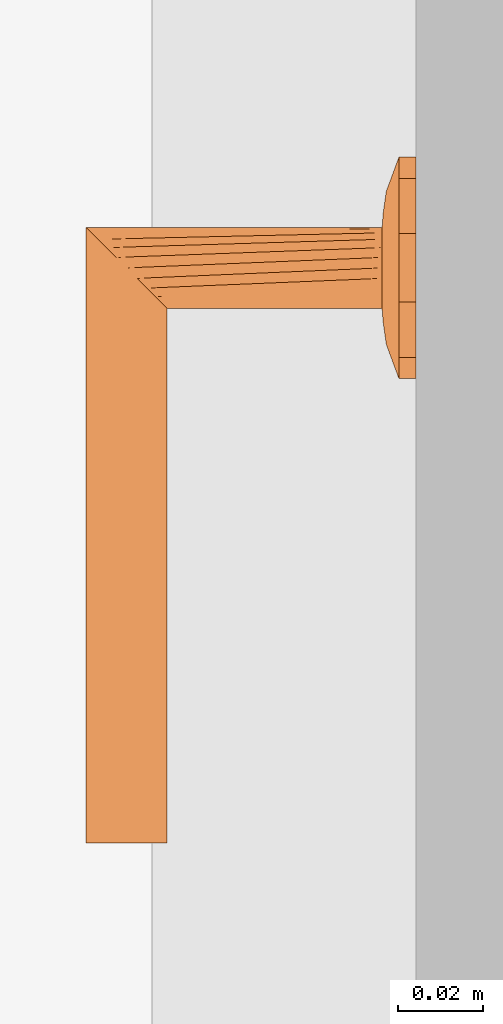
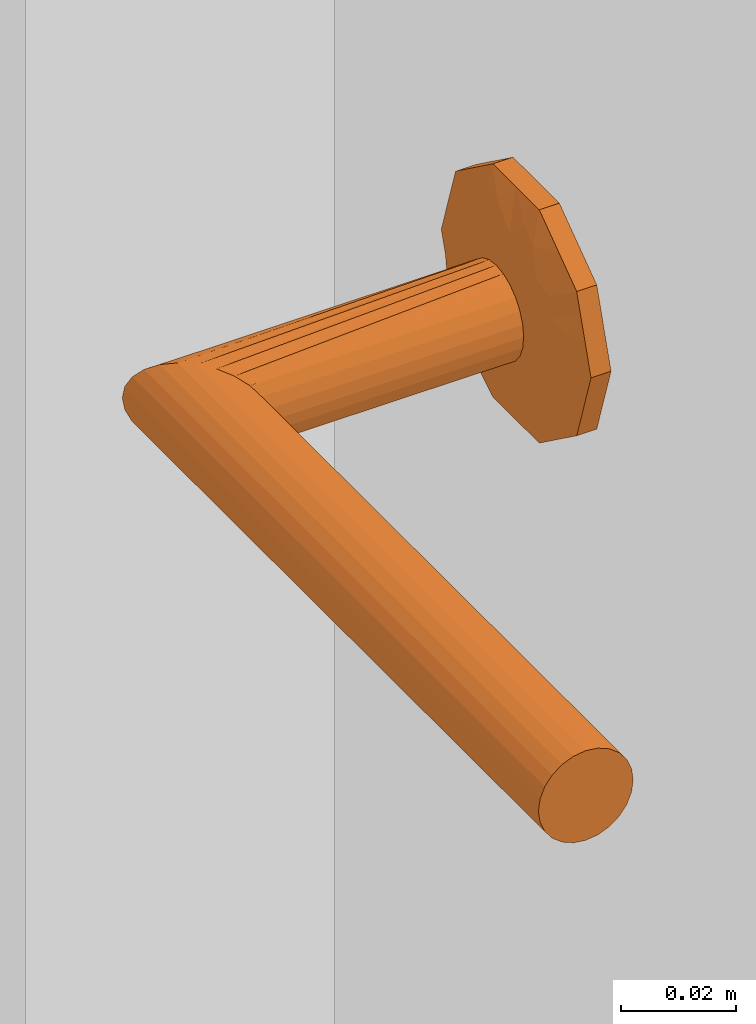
# One storey, part 64 of 68: 1 proxy.
"""IFC2X3 building model written with IfcOpenShell, lengths in millimetres."""

import ifcopenshell
import ifcopenshell.guid

model = None  # the IFC model being written
_history = None  # IfcOwnerHistory: only IFC2X3 demands one
_inside = {}  # id of a spatial element -> (the spatial element, [elements in it])
_under = {}  # id of a project, library or spatial element -> (it, [spatial elements below it])
_declared = {}  # id of a project -> (the project, [libraries it declares])
_typed = {}  # id of a type object -> (the type object, [elements of that type])
_made_of = {}  # id of a material, layer set ... -> (it, [elements and type objects made of it])


def new_model(schema):
    """Start an empty IFC model of exactly this schema.

    Asked for "IFC4X3", IfcOpenShell would pick the latest addendum, in which some entities
    have other attributes; the version numbers below select the first issue.
    IFC2X3 requires an IfcOwnerHistory on every rooted entity: one is made here for all.
    """
    global model, _history
    if schema == "IFC4X3":
        model = ifcopenshell.file(schema_version=(4, 3, 0, 0))
    else:
        model = ifcopenshell.file(schema=schema)
    _inside.clear()
    _under.clear()
    _declared.clear()
    _typed.clear()
    _made_of.clear()
    _history = None
    if model.schema == "IFC2X3":
        org = make("IfcOrganization", Name="unknown")
        user = make(
            "IfcPersonAndOrganization",
            ThePerson=make("IfcPerson", FamilyName="unknown"),
            TheOrganization=org,
        )
        app = make(
            "IfcApplication",
            ApplicationDeveloper=org,
            Version="unknown",
            ApplicationFullName="unknown",
            ApplicationIdentifier="unknown",
        )
        _history = make(
            "IfcOwnerHistory",
            OwningUser=user,
            OwningApplication=app,
            ChangeAction="ADDED",
            CreationDate=0,
        )
    return model


def make(cls, **values):
    """One entity of the class cls with the attributes given. An attribute that is None is left unset."""
    return model.create_entity(
        cls, **{name: value for name, value in values.items() if value is not None}
    )


def entity(cls, *values):
    """Any entity or typed value of the class cls, its attributes in the order of the schema. None: left unset."""
    e = model.create_entity(cls)
    for i, value in enumerate(values):
        if value is not None:
            e[i] = value
    return e


def rooted(cls, **values):
    """An entity with a GlobalId (a new one), such as an element, a storey or a relation."""
    return make(cls, GlobalId=ifcopenshell.guid.new(), OwnerHistory=_history, **values)


def si_unit(unit_type, name, prefix=None):
    """IfcSIUnit, for example si_unit("LENGTHUNIT", "METRE", prefix="MILLI")."""
    return make("IfcSIUnit", UnitType=unit_type, Prefix=prefix, Name=name)


def converted_unit(unit_type, name, factor, base, dimensions=None, offset=None):
    """IfcConversionBasedUnit, such as the inch: factor (a typed value) times the base unit."""
    return make(
        "IfcConversionBasedUnit"
        if offset is None
        else "IfcConversionBasedUnitWithOffset",
        ConversionOffset=offset,
        Dimensions=None
        if dimensions is None
        else entity("IfcDimensionalExponents", *dimensions),
        UnitType=unit_type,
        Name=name,
        ConversionFactor=make(
            "IfcMeasureWithUnit", ValueComponent=factor, UnitComponent=base
        ),
    )


def assignment(units):
    """IfcUnitAssignment: the units of a project."""
    return None if units is None else make("IfcUnitAssignment", Units=units)


def point(xyz):
    """IfcCartesianPoint."""
    return None if xyz is None else make("IfcCartesianPoint", Coordinates=xyz)


def direction(xyz):
    """IfcDirection."""
    return None if xyz is None else make("IfcDirection", DirectionRatios=xyz)


def frame(location, z_axis=None, x_axis=None):
    """IfcAxis2Placement3D, a coordinate frame: its origin and axes. An axis left out is left unset."""
    return make(
        "IfcAxis2Placement3D",
        Location=point(location),
        Axis=direction(z_axis),
        RefDirection=direction(x_axis),
    )


def origin():
    """The frame at (0, 0, 0) with its axes left unset."""
    return frame((0.0, 0.0, 0.0))


def place(relative_to, where):
    """IfcLocalPlacement: puts the frame where relative to a parent placement (None: the world)."""
    return make(
        "IfcLocalPlacement", PlacementRelTo=relative_to, RelativePlacement=where
    )


def context(
    kind, dimensions, precision=None, world=None, true_north=None, identifier=None
):
    """IfcGeometricRepresentationContext, for example the 3D "Model" context."""
    return make(
        "IfcGeometricRepresentationContext",
        ContextIdentifier=identifier,
        ContextType=kind,
        CoordinateSpaceDimension=dimensions,
        Precision=precision,
        WorldCoordinateSystem=world,
        TrueNorth=true_north,
    )


def subcontext(parent, identifier, kind, view, scale=None):
    """IfcGeometricRepresentationSubContext, for example "Body" below "Model"."""
    return make(
        "IfcGeometricRepresentationSubContext",
        ContextIdentifier=identifier,
        ContextType=kind,
        ParentContext=parent,
        TargetScale=scale,
        TargetView=view,
    )


def project(units=None, contexts=None):
    """IfcProject with its units and contexts."""
    return rooted(
        "IfcProject",
        Name="project",
        RepresentationContexts=contexts,
        UnitsInContext=assignment(units),
    )


def spatial(cls, under=None, at=None, **own):
    """A site, building, storey or space (cls), placed at a placement, below another one or the project."""
    s = rooted(cls, ObjectPlacement=at, **own)
    if under is not None:
        _under.setdefault(under.id(), (under, []))[1].append(s)
    return s


def faces_of(points, faces, orient=None, outer=None):
    """IfcFace entities. A face is a list of loops; a loop is a list of indices into points, from 0.

    orient and outer hold one flag for each loop. By default every Orientation is true, the
    first loop of a face is its IfcFaceOuterBound and the others are IfcFaceBound.
    """
    made = []
    for i, loops in enumerate(faces):
        bounds = []
        for j, loop in enumerate(loops):
            is_outer = j == 0 if outer is None else outer[i][j]
            bounds.append(
                make(
                    "IfcFaceOuterBound" if is_outer else "IfcFaceBound",
                    Bound=make("IfcPolyLoop", Polygon=[points[k] for k in loop]),
                    Orientation=True if orient is None else orient[i][j],
                )
            )
        made.append(make("IfcFace", Bounds=bounds))
    return made


def faceted_brep(points, faces, orient=None, outer=None, voids=None):
    """IfcFacetedBrep: a solid bounded by flat faces; with voids (closed shells), ...WithVoids."""
    shared = [point(p) for p in points]
    hull = make("IfcClosedShell", CfsFaces=faces_of(shared, faces, orient, outer))
    if voids is None:
        return make("IfcFacetedBrep", Outer=hull)
    return make(
        "IfcFacetedBrepWithVoids",
        Outer=hull,
        Voids=[
            make(cls, CfsFaces=faces_of(shared, fs, o, b)) for cls, fs, o, b in voids
        ],
    )


def shape(context_of_items, identifier, shape_type, items):
    """IfcShapeRepresentation: the items that make up one representation, for example the "Body"."""
    return make(
        "IfcShapeRepresentation",
        ContextOfItems=context_of_items,
        RepresentationIdentifier=identifier,
        RepresentationType=shape_type,
        Items=items,
    )


def source(mapping_origin, context_of_items, identifier, shape_type, items):
    """IfcRepresentationMap: a shape defined once, which mapped items show again and again."""
    return make(
        "IfcRepresentationMap",
        MappingOrigin=mapping_origin,
        MappedRepresentation=shape(context_of_items, identifier, shape_type, items),
    )


def transform(
    local_origin,
    x_axis=None,
    y_axis=None,
    z_axis=None,
    scale=None,
    scale2=None,
    scale3=None,
    uniform=True,
):
    """IfcCartesianTransformationOperator3D, or its non-uniform kind. x_axis, y_axis, z_axis: its Axis1, 2, 3."""
    if uniform:
        return make(
            "IfcCartesianTransformationOperator3D",
            Axis1=direction(x_axis),
            Axis2=direction(y_axis),
            LocalOrigin=point(local_origin),
            Scale=scale,
            Axis3=direction(z_axis),
        )
    return make(
        "IfcCartesianTransformationOperator3DnonUniform",
        Axis1=direction(x_axis),
        Axis2=direction(y_axis),
        LocalOrigin=point(local_origin),
        Scale=scale,
        Axis3=direction(z_axis),
        Scale2=scale2,
        Scale3=scale3,
    )


def mapped(mapping_source, mapping_target):
    """IfcMappedItem: shows the shape of a source again, moved by a transform."""
    return make(
        "IfcMappedItem", MappingSource=mapping_source, MappingTarget=mapping_target
    )


def material(Name=None, Category=None):
    """IfcMaterial."""
    return make("IfcMaterial", Name=Name, Category=Category)


def made_of(thing, what):
    """Note that an element or type object is made of a material, layer set ...; save() writes the relation."""
    if what is not None:
        _made_of.setdefault(what.id(), (what, []))[1].append(thing)
    return thing


def type_object(cls, material=None, **own):
    """A type object (cls), such as IfcWallType, which elements share."""
    return made_of(rooted(cls, **own), material)


def type_shapes(of_type, sources):
    """Give a type object the sources (RepresentationMaps) that its elements show as mapped items."""
    of_type.RepresentationMaps = sources


def element(
    cls,
    number,
    at=None,
    inside=None,
    cuts=None,
    type_object=None,
    material=None,
    context=None,
    identifier="Body",
    shape_type=None,
    held_by="IfcProductDefinitionShape",
    body=None,
    shapes=None,
    **own,
):
    """One element of the class cls, such as IfcWall. Its Tag is "e" and its number.

    at: its placement. inside: the storey or other place that contains it. cuts: it is an
    opening in that element (IfcRelVoidsElement). A single representation is given by context,
    identifier, shape_type and body (its items); several are given by shapes. held_by: the class
    of the entity that holds the representations. save() writes the other relations.
    """
    e = rooted(cls, Tag="e%d" % number, ObjectPlacement=at, **own)
    if body is not None:
        shapes = [shape(context, identifier, shape_type, body)]
    if shapes is not None:
        e.Representation = make(held_by, Representations=shapes)
    if inside is not None:
        _inside.setdefault(inside.id(), (inside, []))[1].append(e)
    if cuts is not None:
        rooted(
            "IfcRelVoidsElement", RelatingBuildingElement=cuts, RelatedOpeningElement=e
        )
    if type_object is not None:
        _typed.setdefault(type_object.id(), (type_object, []))[1].append(e)
    return made_of(e, material)


def aggregate(whole, parts):
    """IfcRelAggregates: a whole, such as a stair, and the parts it consists of."""
    return rooted("IfcRelAggregates", RelatingObject=whole, RelatedObjects=parts)


def save(model, path):
    """Write the relations noted so far, then the file.

    IfcRelAggregates (storeys below a building ...), IfcRelContainedInSpatialStructure (elements
    in a storey), IfcRelDefinesByType, IfcRelAssociatesMaterial and IfcRelDeclares: one each for
    every whole, place, type object, material and project.
    """
    for whole, parts in _under.values():
        aggregate(whole, parts)
    for where, things in _inside.values():
        rooted(
            "IfcRelContainedInSpatialStructure",
            RelatedElements=things,
            RelatingStructure=where,
        )
    for kind, things in _typed.values():
        rooted("IfcRelDefinesByType", RelatedObjects=things, RelatingType=kind)
    for what, things in _made_of.values():
        rooted("IfcRelAssociatesMaterial", RelatedObjects=things, RelatingMaterial=what)
    for by, libraries in _declared.values():
        rooted("IfcRelDeclares", RelatingContext=by, RelatedDefinitions=libraries)
    model.write(path)


model = new_model("IFC2X3")

# Units and contexts
model_context = context("Model", 3, precision=0.01, world=origin(), true_north=direction((6.123233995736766e-17, 1.0)))
plan_context = context("Plan", 3, precision=0.01, world=origin(), true_north=direction((6.123233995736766e-17, 1.0)))
body_context = subcontext(model_context, "Body", "Model", "MODEL_VIEW")
ifc_project = project(units=[si_unit("LENGTHUNIT", "METRE", prefix="MILLI"), converted_unit("PLANEANGLEUNIT", "DEGREE", entity("IfcPlaneAngleMeasure", 0.017453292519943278), si_unit("PLANEANGLEUNIT", "RADIAN"), dimensions=[0, 0, 0, 0, 0, 0, 0]), si_unit("AREAUNIT", "SQUARE_METRE")], contexts=[model_context, plan_context])

# Site, building, storey
site_placement = place(None, origin())
site = spatial("IfcSite", under=ifc_project, at=site_placement, Name="Default", CompositionType="ELEMENT")
building_placement = place(site_placement, origin())
building = spatial("IfcBuilding", under=site, at=building_placement, CompositionType="ELEMENT")
storey_placement = place(building_placement, frame((0.0, 0.0, 6295.0)))
storey = spatial("IfcBuildingStorey", under=building, at=storey_placement, Name="3K", CompositionType="ELEMENT", Elevation=6294.999999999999)

# Proxy
ifc_material = material(Name="<Unnamed>")
building_element_proxy_type = type_object("IfcBuildingElementProxyType", Name="Door-handle_Lever_ABLOY_INOXI_3-19ss-002_RT:Default", PredefinedType="NOTDEFINED", material=ifc_material)
shared_shape = source(origin(), body_context, "Body", "Brep", [
    faceted_brep([(0.0, 0.0, 0.0), (8.034441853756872, 24.72746942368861, 0.0), (14.534441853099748, 20.00494299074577, 0.0), (21.034441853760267, 15.282416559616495, 0.0), (23.51722092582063, 7.641208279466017, 0.0), (26.0, 0.0, 0.0), (23.517220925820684, -7.641208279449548, 0.0), (0.0, 24.72746942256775, 0.0), (-8.034441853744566, 24.727469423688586, 0.0), (-14.534441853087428, 20.00494299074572, 0.0), (-21.03444185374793, 15.282416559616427, 0.0), (-23.517220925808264, 7.641208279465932, 0.0), (-26.0, 0.0, 0.0), (21.034441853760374, -15.282416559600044, 0.0), (14.534441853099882, -20.004942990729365, 0.0), (8.034441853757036, -24.72746942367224, 0.0), (0.0, -24.72746942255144, 0.0), (-23.517220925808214, -7.641208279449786, 0.0), (-21.034441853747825, -15.282416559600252, 0.0), (-14.53444185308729, -20.004942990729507, 0.0), (-8.0344418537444, -24.72746942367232, 0.0), (0.0, 0.0, 8.0), (9.500000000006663, 0.0, 8.0), (8.312500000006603, 2.056810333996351, 8.0), (7.125000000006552, 4.113620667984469, 8.0), (5.937500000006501, 6.170431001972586, 8.0), (4.7500000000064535, 8.227241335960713, 8.0), (2.375000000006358, 8.2272413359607, 8.0), (0.0, 8.227241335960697, 8.0), (-2.3749999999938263, 8.227241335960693, 8.0), (-4.749999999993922, 8.227241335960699, 8.0), (-5.937499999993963, 6.1704310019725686, 8.0), (-7.124999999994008, 4.1136206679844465, 8.0), (-8.312499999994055, 2.0568103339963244, 8.0), (-9.499999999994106, 0.0, 8.0), (-8.31249999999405, -2.0568103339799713, 8.0), (8.312500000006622, -2.0568103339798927, 8.0), (7.125000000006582, -4.113620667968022, 8.0), (5.937500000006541, -6.170431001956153, 8.0), (4.750000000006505, -8.227241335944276, 8.0), (-7.124999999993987, -4.113620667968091, 8.0), (-5.9374999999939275, -6.17043100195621, 8.0), (-4.74999999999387, -8.227241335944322, 8.0), (-2.374999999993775, -8.227241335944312, 8.0), (0.0, -8.227241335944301, 8.0), (2.3750000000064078, -8.227241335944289, 8.0), (-20.6430713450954, 6.292822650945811, 5.929480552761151), (-16.663919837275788, 7.932665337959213, 6.877259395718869), (-22.48876527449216, 10.806469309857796, 4.030771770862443), (-16.764060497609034, 3.8202578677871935, 7.1747985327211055), (-12.504579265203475, 5.179566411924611, 7.774932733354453), (-11.979136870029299, 13.678312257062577, 6.945778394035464), (-11.963426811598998, 8.62529041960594, 7.618343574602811), (-9.07172672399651, 10.31160661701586, 7.7520782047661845), (8.03444185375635, 24.727469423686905, 4.030771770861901), (0.0, 24.72746942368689, 4.030771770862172), (5.758554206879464, 20.96753300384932, 5.871476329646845), (20.643071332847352, 6.292822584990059, 5.929480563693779), (22.488765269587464, 10.806469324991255, 4.03077177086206), (16.66391982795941, 7.9326653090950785, 6.877259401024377), (9.49943163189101, 18.6436835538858, 6.154325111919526), (14.534441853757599, 20.004942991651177, 4.030771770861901), (-14.534441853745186, 20.00494299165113, 4.030771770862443), (-21.034441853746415, 15.282416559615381, 4.030771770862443), (-15.783149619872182, 11.991003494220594, 6.50080018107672), (-23.943088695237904, 6.330522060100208, 4.030771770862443), (-23.012042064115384, 0.0, 5.135401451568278), (12.50457924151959, 5.179566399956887, 7.774932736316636), (11.963426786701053, 8.625290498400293, 7.618343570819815), (16.76406041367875, 3.820257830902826, 7.17479855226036), (15.783149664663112, 11.991003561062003, 6.50080015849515), (23.01204200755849, 0.0, 5.135401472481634), (17.9853516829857, 0.0, 6.993737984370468), (8.661516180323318, 10.478936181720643, 7.768126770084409), (-3.3573143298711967, 21.197247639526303, 5.971427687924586), (-8.03444185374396, 24.727469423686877, 4.030771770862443), (-7.711266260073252, 12.76034452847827, 7.594456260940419), (-5.97325794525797, 16.43013906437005, 7.110979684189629), (-9.94191586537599, 17.061976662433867, 6.522757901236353), (11.979136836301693, 13.678312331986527, 6.945778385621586), (5.953298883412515, 16.50608604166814, 7.096344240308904), (7.511307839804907, 13.358932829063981, 7.529187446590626), (-1.5654593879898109, 15.307443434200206, 7.519134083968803), (-7.784980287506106, 20.476295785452, 5.812837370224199), (2.8135289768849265, 17.763922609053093, 6.993737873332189), (-17.985351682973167, 0.0, 6.993737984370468), (-26.0, 0.0, 4.030771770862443), (-23.51722092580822, 7.641208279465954, 4.030771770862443), (26.0, 0.0, 4.030771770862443), (24.308823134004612, 5.204907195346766, 4.030771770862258), (23.943088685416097, 6.330522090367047, 4.030771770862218), (21.03444185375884, 15.282416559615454, 4.030771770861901), (22.617646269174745, 10.40981439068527, 4.030771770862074), (20.6430713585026, -6.292822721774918, 5.929480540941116), (16.663919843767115, -7.932665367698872, 6.877259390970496), (22.48876527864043, -10.8064692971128, 4.030771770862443), (16.764060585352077, -3.8202579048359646, 7.174798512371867), (12.504579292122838, -5.17956641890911, 7.774932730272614), (11.979136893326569, -13.678312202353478, 6.9457784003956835), (11.963426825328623, -8.62529034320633, 7.618343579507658), (9.071726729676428, -10.311606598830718, 7.752078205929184), (-8.03444185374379, -24.727469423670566, 4.030771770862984), (0.0, -24.727469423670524, 4.030771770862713), (-5.758554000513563, -20.96753314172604, 5.8714763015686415), (-20.643071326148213, -6.292822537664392, 5.929480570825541), (-22.488765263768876, -10.80646934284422, 4.030771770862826), (-16.66391981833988, -7.932665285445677, 6.877259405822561), (-9.499431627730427, -18.643683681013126, 6.154325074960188), (-14.534441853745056, -20.004942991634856, 4.030771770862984), (14.53444185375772, -20.00494299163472, 4.030771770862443), (21.034441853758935, -15.282416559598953, 4.030771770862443), (15.783149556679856, -11.991003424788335, 6.5008002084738), (23.943088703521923, -6.330522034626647, 4.030771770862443), (-12.504579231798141, -5.17956638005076, 7.77493273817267), (-11.963426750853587, -8.625290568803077, 7.618343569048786), (-16.764060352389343, -3.8202577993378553, 7.174798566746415), (-15.783149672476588, -11.991003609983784, 6.500800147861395), (-8.661516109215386, -10.478936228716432, 7.768126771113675), (3.3573144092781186, -21.197247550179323, 5.971427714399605), (8.034441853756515, -24.727469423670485, 4.030771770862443), (7.711266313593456, -12.760344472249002, 7.5944562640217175), (5.9732581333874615, -16.430139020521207, 7.110979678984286), (9.941915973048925, -17.06197655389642, 6.522757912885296), (-11.979136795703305, -13.678312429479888, 6.945778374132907), (-5.953298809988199, -16.506086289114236, 7.096344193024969), (-7.511307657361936, -13.358932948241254, 7.5291874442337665), (1.5654596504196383, -15.3074431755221, 7.519134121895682), (7.784980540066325, -20.476295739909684, 5.812837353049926), (-2.81352881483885, -17.76392263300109, 6.993737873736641), (23.517220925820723, -7.64120827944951, 4.030771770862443), (-24.308823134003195, -5.20490719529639, 4.030771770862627), (-23.943088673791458, -6.330522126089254, 4.030771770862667), (-21.034441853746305, -15.282416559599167, 4.030771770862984), (-22.617646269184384, -10.409814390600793, 4.0307717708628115)], [[[0, 1, 2]], [[0, 2, 3]], [[0, 3, 4]], [[0, 4, 5]], [[0, 5, 6]], [[0, 7, 1]], [[0, 8, 7]], [[0, 9, 8]], [[0, 10, 9]], [[0, 11, 10]], [[0, 12, 11]], [[0, 6, 13]], [[0, 13, 14]], [[0, 14, 15]], [[0, 15, 16]], [[0, 17, 12]], [[0, 18, 17]], [[0, 19, 18]], [[0, 20, 19]], [[0, 16, 20]], [[21, 22, 23]], [[21, 23, 24]], [[21, 24, 25]], [[21, 25, 26]], [[21, 26, 27]], [[21, 27, 28]], [[21, 28, 29]], [[21, 29, 30]], [[21, 30, 31]], [[21, 31, 32]], [[21, 32, 33]], [[21, 33, 34]], [[21, 34, 35]], [[21, 36, 22]], [[21, 37, 36]], [[21, 38, 37]], [[21, 39, 38]], [[21, 35, 40]], [[21, 40, 41]], [[21, 41, 42]], [[21, 42, 43]], [[21, 43, 44]], [[21, 44, 45]], [[21, 45, 39]], [[46, 47, 48]], [[49, 50, 47]], [[33, 32, 50]], [[51, 52, 53]], [[32, 52, 50]], [[49, 47, 46]], [[54, 55, 56]], [[57, 58, 59]], [[60, 61, 54]], [[62, 63, 64]], [[46, 65, 66]], [[67, 59, 68]], [[23, 69, 67]], [[70, 68, 59]], [[23, 22, 69]], [[52, 51, 64]], [[71, 69, 72]], [[73, 25, 68]], [[74, 55, 75]], [[76, 77, 78]], [[70, 61, 79]], [[71, 57, 69]], [[60, 80, 81]], [[51, 76, 78]], [[77, 29, 82]], [[26, 81, 27]], [[74, 83, 77]], [[77, 82, 74]], [[74, 84, 55]], [[34, 49, 85]], [[23, 67, 24]], [[28, 84, 82]], [[74, 82, 84]], [[29, 76, 30]], [[29, 28, 82]], [[49, 34, 33]], [[47, 50, 52]], [[47, 52, 64]], [[50, 49, 33]], [[53, 76, 51]], [[52, 32, 31]], [[49, 66, 85]], [[86, 66, 65]], [[24, 67, 68]], [[83, 78, 77]], [[49, 46, 66]], [[48, 64, 63]], [[46, 48, 87, 65]], [[48, 47, 64]], [[59, 67, 69]], [[26, 73, 81]], [[79, 68, 70]], [[25, 24, 68]], [[71, 88, 89, 90]], [[22, 72, 69]], [[59, 69, 57]], [[79, 61, 60]], [[51, 62, 64]], [[70, 58, 91]], [[90, 57, 71]], [[58, 70, 59]], [[57, 90, 92]], [[79, 60, 81]], [[61, 70, 91]], [[56, 80, 60]], [[79, 81, 73]], [[80, 84, 27]], [[79, 73, 68]], [[27, 84, 28]], [[25, 73, 26]], [[77, 76, 29]], [[31, 30, 53]], [[78, 62, 51]], [[75, 62, 83]], [[78, 83, 62]], [[75, 83, 74]], [[76, 53, 30]], [[31, 53, 52]], [[81, 80, 27]], [[84, 80, 56]], [[84, 56, 55]], [[54, 56, 60]], [[93, 94, 95]], [[96, 97, 94]], [[36, 37, 97]], [[98, 99, 100]], [[37, 99, 97]], [[96, 94, 93]], [[101, 102, 103]], [[104, 105, 106]], [[107, 108, 101]], [[109, 110, 111]], [[93, 112, 71]], [[113, 106, 114]], [[35, 115, 113]], [[116, 114, 106]], [[35, 34, 115]], [[99, 98, 111]], [[66, 115, 85]], [[117, 41, 114]], [[118, 102, 119]], [[120, 121, 122]], [[116, 108, 123]], [[66, 104, 115]], [[107, 124, 125]], [[120, 45, 121]], [[121, 45, 126]], [[42, 125, 43]], [[118, 127, 121]], [[121, 126, 118]], [[118, 128, 102]], [[22, 96, 72]], [[35, 113, 40]], [[44, 128, 126]], [[118, 126, 128]], [[45, 120, 39]], [[45, 44, 126]], [[96, 22, 36]], [[94, 97, 99]], [[94, 99, 111]], [[97, 96, 36]], [[100, 120, 98]], [[99, 37, 38]], [[96, 71, 72]], [[88, 71, 112]], [[40, 113, 114]], [[127, 122, 121]], [[96, 93, 71]], [[95, 111, 110]], [[93, 95, 129, 112]], [[95, 94, 111]], [[106, 113, 115]], [[42, 117, 125]], [[123, 114, 116]], [[41, 40, 114]], [[66, 86, 130, 131]], [[34, 85, 115]], [[106, 115, 104]], [[123, 108, 107]], [[98, 109, 111]], [[116, 105, 132]], [[131, 104, 66]], [[105, 116, 106]], [[104, 131, 133]], [[123, 107, 125]], [[108, 116, 132]], [[103, 124, 107]], [[123, 125, 117]], [[124, 128, 43]], [[123, 117, 114]], [[43, 128, 44]], [[41, 117, 42]], [[38, 39, 100]], [[98, 120, 122]], [[122, 109, 98]], [[119, 109, 127]], [[122, 127, 109]], [[119, 127, 118]], [[120, 100, 39]], [[38, 100, 99]], [[125, 124, 43]], [[128, 124, 103]], [[128, 103, 102]], [[101, 103, 107]], [[9, 10, 63, 62, 75, 8]], [[11, 12, 86, 65, 87, 48, 63, 10]], [[4, 3, 92, 90, 89, 88, 5]], [[3, 91, 58]], [[55, 54, 1, 7, 8, 75]], [[3, 2, 1, 54, 61, 91]], [[13, 6, 5, 88, 112, 129, 95, 110]], [[119, 15, 14, 13, 110, 109]], [[17, 18, 133, 131, 130, 86, 12]], [[18, 132, 105]], [[102, 101, 20, 16, 15, 119]], [[18, 19, 20, 101, 108, 132]], [[57, 92, 58]], [[104, 133, 105]], [[3, 58, 92]], [[18, 105, 133]]]),
    faceted_brep([(0.0, 9.499999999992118, 8.0), (2.4587809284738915, 9.176295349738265, 8.0), (4.7499999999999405, 8.22724133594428, 8.0), (6.717514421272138, 6.7175144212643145, 8.0), (8.227241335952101, 4.749999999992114, 8.0), (9.17629534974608, 2.458780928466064, 8.0), (9.499999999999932, 0.0, 8.0), (9.17629534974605, -2.458780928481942, 8.0), (8.22724133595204, -4.75000000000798, 8.0), (6.717514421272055, -6.717514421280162, 8.0), (4.7499999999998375, -8.227241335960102, 8.0), (2.4587809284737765, -9.176295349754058, 8.0), (0.0, -9.500000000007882, 8.0), (-2.4587809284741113, -9.176295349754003, 8.0), (-4.750000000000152, -8.227241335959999, 8.0), (-6.717514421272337, -6.717514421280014, 8.0), (-8.227241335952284, -4.750000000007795, 8.0), (-9.176295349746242, -2.458780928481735, 8.0), (-9.500000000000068, 0.0, 8.0), (-9.176295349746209, 2.4587809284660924, 8.0), (-8.227241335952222, 4.74999999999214, 8.0), (-6.717514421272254, 6.717514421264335, 8.0), (-4.7500000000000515, 8.227241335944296, 8.0), (-2.4587809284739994, 9.176295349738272, 8.0), (-6.717514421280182, -6.7175144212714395, 61.282485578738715), (-8.227241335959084, -4.7499999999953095, 59.772758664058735), (-9.176295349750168, -2.458780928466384, 58.82370465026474), (-2.4587809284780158, -9.176295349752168, 65.54121907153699), (-4.750000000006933, -8.227241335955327, 63.25000000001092), (-9.500000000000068, 0.0, 58.50000000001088), (0.0, -9.50000000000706, 68.0), (2.4587809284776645, -9.17629534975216, 70.45878092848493), (4.750000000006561, -8.227241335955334, 72.75000000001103), (6.717514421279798, -6.7175144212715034, 74.71751442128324), (9.17629534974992, -2.458780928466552, 77.17629534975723), (8.22724133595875, -4.749999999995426, 76.22724133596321), (9.499999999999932, 0.0, 77.50000000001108), (9.176295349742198, 2.4587809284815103, 77.1762953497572), (8.227241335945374, 4.750000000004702, 76.22724133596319), (4.749999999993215, 8.227241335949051, 72.75000000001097), (6.7175144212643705, 6.717514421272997, 74.7175144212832), (2.4587809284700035, 9.17629534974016, 70.45878092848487), (-2.4587809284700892, 9.176295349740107, 65.54121907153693), (0.0, 9.49999999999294, 68.0), (-6.717514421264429, 6.717514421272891, 61.282485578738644), (-4.749999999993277, 8.227241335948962, 63.250000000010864), (-9.176295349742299, 2.458780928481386, 58.8237046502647), (-8.227241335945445, 4.750000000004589, 59.77275866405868), (-135.0, 9.500000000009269, 68.0), (-135.0, 9.176295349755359, 65.54121907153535), (-135.0, 8.227241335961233, 63.25000000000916), (-135.0, 6.7175144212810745, 61.28248557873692), (-135.0, 4.750000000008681, 59.772758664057), (-135.0, 2.458780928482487, 58.82370465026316), (-135.0, 0.0, 58.50000000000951), (-135.0, -2.458780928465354, 58.823704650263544), (-135.0, -4.749999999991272, 59.772758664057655), (-135.0, -6.717514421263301, 61.28248557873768), (-135.0, -8.227241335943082, 63.250000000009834), (-135.0, -9.17629534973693, 65.54121907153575), (-135.0, -9.499999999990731, 68.0), (-135.0, -9.17629534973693, 70.45878092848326), (-135.0, -8.227241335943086, 72.75000000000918), (-135.0, -6.717514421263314, 74.71751442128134), (-135.0, -4.749999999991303, 76.22724133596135), (-135.0, -2.4587809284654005, 77.17629534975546), (-135.0, 0.0, 77.5000000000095), (-135.0, 2.4587809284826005, 77.17629534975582), (-135.0, 4.750000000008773, 76.22724133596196), (-135.0, 6.717514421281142, 74.71751442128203), (-135.0, 8.227241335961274, 72.75000000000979), (-135.0, 9.176295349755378, 70.4587809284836)], [[[0, 1, 2, 3, 4, 5, 6, 7, 8, 9, 10, 11, 12, 13, 14, 15, 16, 17, 18, 19, 20, 21, 22, 23]], [[15, 24, 25, 16]], [[16, 25, 26, 17]], [[27, 28, 12]], [[12, 28, 13]], [[13, 28, 24]], [[18, 17, 26, 29]], [[24, 15, 14]], [[14, 13, 24]], [[11, 30, 27]], [[31, 9, 32]], [[32, 8, 33]], [[34, 35, 7]], [[7, 35, 33]], [[36, 34, 7, 6]], [[30, 11, 10]], [[11, 27, 12]], [[33, 8, 7]], [[8, 32, 9]], [[31, 10, 9]], [[10, 31, 30]], [[37, 36, 6, 5]], [[37, 5, 38]], [[39, 40, 4]], [[5, 40, 38]], [[41, 39, 3]], [[5, 4, 40]], [[42, 43, 1]], [[2, 1, 43]], [[2, 41, 3]], [[39, 4, 3]], [[2, 43, 41]], [[23, 44, 45]], [[0, 45, 42]], [[19, 18, 29, 46]], [[20, 19, 46, 47]], [[21, 20, 47, 44]], [[23, 22, 44]], [[45, 0, 23]], [[44, 22, 21]], [[1, 0, 42]], [[48, 49, 50, 51, 52, 53, 54, 55, 56, 57, 58, 59, 60, 61, 62, 63, 64, 65, 66, 67, 68, 69, 70, 71]], [[26, 25, 56, 55]], [[29, 26, 55, 54]], [[28, 27, 59, 58]], [[24, 28, 58, 57]], [[25, 24, 57, 56]], [[27, 30, 60, 59]], [[32, 33, 63, 62]], [[31, 32, 62, 61]], [[34, 36, 66, 65]], [[35, 34, 65, 64]], [[33, 35, 64, 63]], [[61, 60, 30, 31]], [[38, 68, 67, 37]], [[37, 67, 66, 36]], [[41, 71, 70, 39]], [[39, 70, 69, 40]], [[40, 69, 68, 38]], [[48, 71, 41, 43]], [[44, 51, 50, 45]], [[45, 50, 49, 42]], [[29, 54, 53, 46]], [[46, 53, 52, 47]], [[47, 52, 51, 44]], [[42, 49, 48, 43]]]),
])
type_shapes(building_element_proxy_type, [shared_shape])
proxy_placement = place(storey_placement, frame((13550.0, 5052.0, 1000.0), z_axis=(-1.0, 0.0, 0.0), x_axis=(0.0, 1.0, 0.0)))
element("IfcBuildingElementProxy", 1, at=proxy_placement, inside=storey, type_object=building_element_proxy_type, material=ifc_material, Name="Door-handle_Lever_ABLOY_INOXI_3-19ss-002_RT:Default", ObjectType="Door-handle_Lever_ABLOY_INOXI_3-19ss-002_RT:Default", context=body_context, shape_type="MappedRepresentation", body=[
    mapped(shared_shape, transform((0.0, 0.0, 0.0), scale=1.0)),
])

save(model, "model.ifc")
